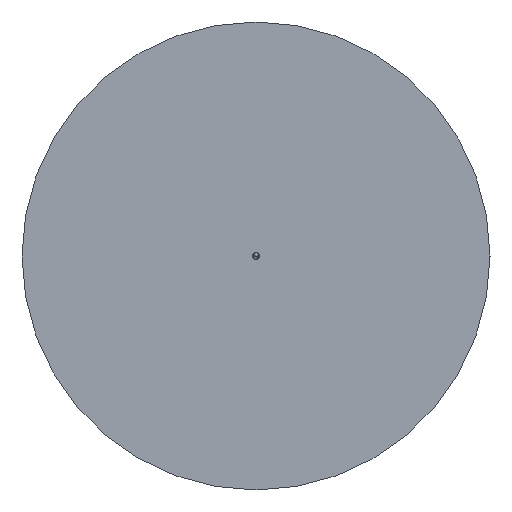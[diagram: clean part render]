
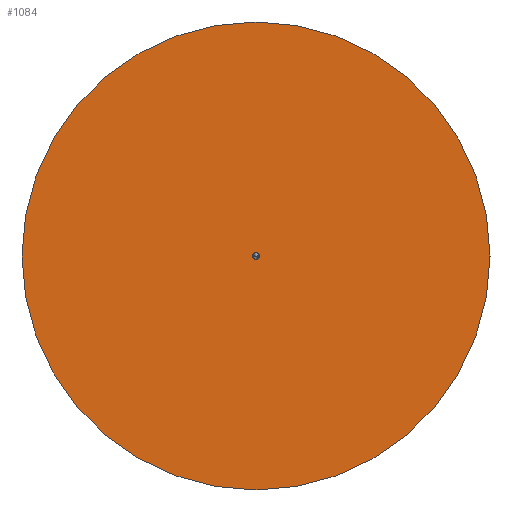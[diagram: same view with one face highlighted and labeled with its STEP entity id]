
A CAD part, front view. The second image highlights one B-rep face of the part: STEP entity #1084.
In plain terms, the highlighted planar face has unit normal (0, -1, 0).
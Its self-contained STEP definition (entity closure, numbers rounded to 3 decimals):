
#505=CARTESIAN_POINT('',(0.702,-17.909,0.));
#506=VERTEX_POINT('',#505);
#521=CARTESIAN_POINT('',(-0.702,-17.909,0.));
#522=VERTEX_POINT('',#521);
#529=CARTESIAN_POINT('',(0.0,-17.909,0.));
#530=DIRECTION('',(0.0,-1.0,0.0));
#531=DIRECTION('',(1.0,0.0,0.0));
#532=AXIS2_PLACEMENT_3D('',#529,#530,#531);
#533=CIRCLE('',#532,0.702);
#534=EDGE_CURVE('',#522,#506,#533,.T.);
#546=CARTESIAN_POINT('',(50.,-17.909,0.));
#547=VERTEX_POINT('',#546);
#563=CARTESIAN_POINT('',(-50.,-17.909,0.));
#564=VERTEX_POINT('',#563);
#571=CARTESIAN_POINT('',(0.0,-17.909,0.));
#572=DIRECTION('',(0.0,-1.0,0.0));
#573=DIRECTION('',(1.0,0.0,0.0));
#574=AXIS2_PLACEMENT_3D('',#571,#572,#573);
#575=CIRCLE('',#574,50.);
#576=EDGE_CURVE('',#547,#564,#575,.T.);
#1053=CARTESIAN_POINT('',(0.0,-17.909,0.));
#1054=DIRECTION('',(0.0,-1.0,0.0));
#1055=DIRECTION('',(1.0,0.0,0.0));
#1056=AXIS2_PLACEMENT_3D('',#1053,#1054,#1055);
#1057=CIRCLE('',#1056,50.);
#1058=EDGE_CURVE('',#564,#547,#1057,.T.);
#1065=CARTESIAN_POINT('',(25.351,-17.909,0.));
#1066=DIRECTION('',(0.0,-1.0,0.0));
#1067=DIRECTION('',(0.0,0.0,-1.0));
#1068=AXIS2_PLACEMENT_3D('',#1065,#1066,#1067);
#1069=PLANE('',#1068);
#1070=ORIENTED_EDGE('',*,*,#576,.T.);
#1071=ORIENTED_EDGE('',*,*,#1058,.T.);
#1072=EDGE_LOOP('',(#1070,#1071));
#1073=FACE_OUTER_BOUND('',#1072,.T.);
#1074=CARTESIAN_POINT('',(0.0,-17.909,0.));
#1075=DIRECTION('',(0.0,-1.0,0.0));
#1076=DIRECTION('',(1.0,0.0,0.0));
#1077=AXIS2_PLACEMENT_3D('',#1074,#1075,#1076);
#1078=CIRCLE('',#1077,0.702);
#1079=EDGE_CURVE('',#506,#522,#1078,.T.);
#1080=ORIENTED_EDGE('',*,*,#1079,.F.);
#1081=ORIENTED_EDGE('',*,*,#534,.F.);
#1082=EDGE_LOOP('',(#1080,#1081));
#1083=FACE_BOUND('',#1082,.T.);
#1084=ADVANCED_FACE('',(#1073,#1083),#1069,.T.);
